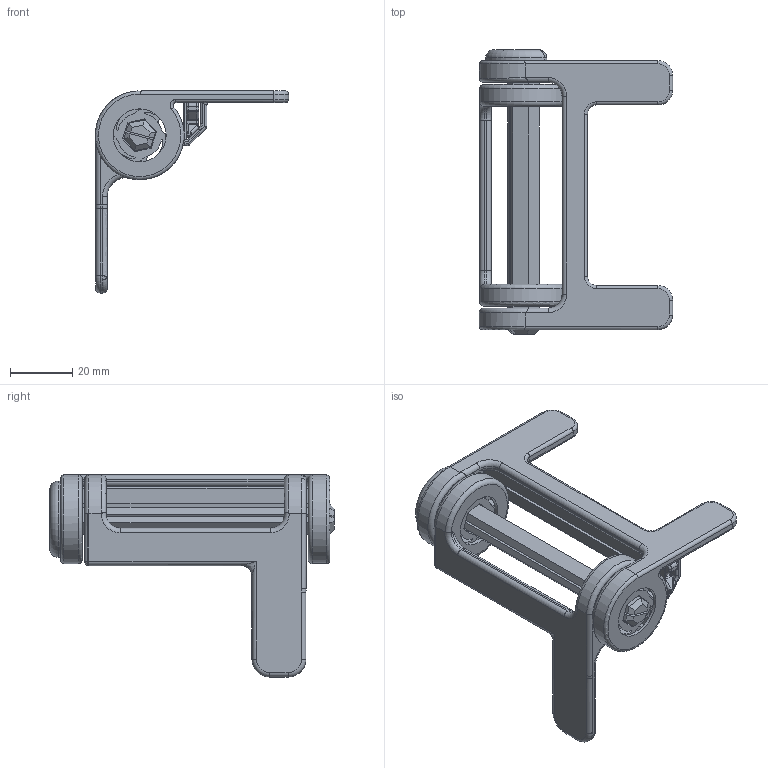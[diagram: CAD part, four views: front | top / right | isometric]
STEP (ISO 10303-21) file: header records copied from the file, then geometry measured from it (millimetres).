
FILE_DESCRIPTION(/* description */ (''),/* implementation_level */ '2;1');
FILE_NAME(/* name */ 'tsr7b v19.step',/* time_stamp */ '2023-02-10T01:46:19-08:00',/* author */ (''),/* organization */ (''),/* preprocessor_version */ 'ST-DEVELOPER v19.2',/* originating_system */ 'Autodesk Translation Framework v11.17.0.187',/* authorisation */ '');
FILE_SCHEMA (('AUTOMOTIVE_DESIGN { 1 0 10303 214 3 1 1 }'));
Length unit declared in the file: millimetre
Products named in the file (6): tsr7b; i; ROD; o; s; g
Assembly tree (5 placements, depth 2):
  tsr7b
    i
    ROD
    o
    s
    g
Bounding box: 61.98 x 91.22 x 64.78 mm (x, y, z)
Volume: 31328.3 mm3; surface area: 26406.9 mm2
Topology: 8 solids, 8 shells, 765 faces, 2008 edges, 1250 vertices
Faces by surface type: plane 442, cylinder 148, bspline 108, torus 54, sphere 12, cone 1
Full cylindrical faces by diameter (mm): 17 x4
Entity records: 28536 total; most frequent: CARTESIAN_POINT 10418, ORIENTED_EDGE 3996, DIRECTION 3327, EDGE_CURVE 1998, LINE 1255, VECTOR 1255, VERTEX_POINT 1250, AXIS2_PLACEMENT_3D 1036
